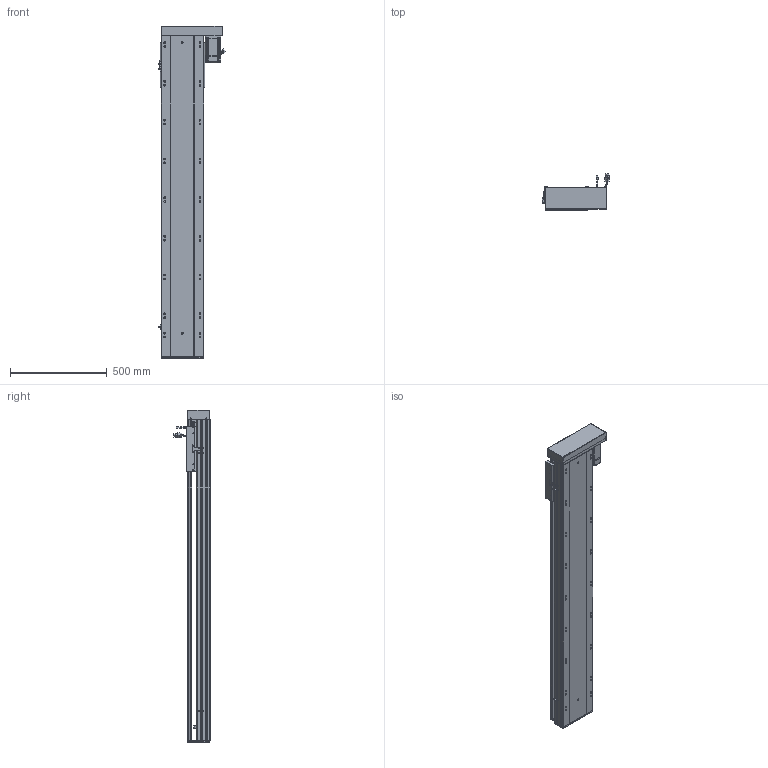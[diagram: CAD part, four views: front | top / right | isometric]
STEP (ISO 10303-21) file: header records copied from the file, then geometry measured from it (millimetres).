
FILE_DESCRIPTION (( 'STEP AP203' ), '1' );
FILE_NAME ('RY220-L2525-800-RK-邧嶺.SLDASM_1300.step', '2022-08-06T08:53:05', ( '' ), ( '' ), 'SwSTEP 2.0', 'SolidWorks 2016', '' );
FILE_SCHEMA (( 'CONFIG_CONTROL_DESIGN' ));
Length unit declared in the file: millimetre
Products named in the file (12): 滅袉蝶18-15; RY220左右折电机安装板; RY220-俋离672覜茼んえ; 滅袉蝶18-10; RY220蛌殏菁釱-800-邧嶺_1300; RY220半封闭25-32螺母铝滑块; RY220酘衵殏萇儂欶; RY220-L2525-800-RK-邧嶺.SLDASM_1300; 怢湛750W_ECMA-CX0807ES; 覜茼ん672; RY220綴裔啣; RY220-800-蛌殏奻裔啣_1300
Assembly tree (15 placements, depth 2):
  RY220-L2525-800-RK-邧嶺.SLDASM_1300
    RY220蛌殏菁釱-800-邧嶺_1300
    RY220-800-蛌殏奻裔啣_1300
    怢湛750W_ECMA-CX0807ES
    滅袉蝶18-10  x2
    RY220-俋离672覜茼んえ
    覜茼ん672  x3
    RY220綴裔啣
    RY220半封闭25-32螺母铝滑块
    滅袉蝶18-15  x2
    RY220左右折电机安装板
    RY220酘衵殏萇儂欶
Bounding box: 347.44 x 187.27 x 1714 mm (x, y, z)
Volume: 13676779.1 mm3; surface area: 4074642.5 mm2
Topology: 16 solids, 16 shells, 2243 faces, 6192 edges, 3903 vertices
Faces by surface type: cylinder 1023, plane 904, cone 246, bspline 44, sphere 16, torus 10
Entity records: 74051 total; most frequent: CARTESIAN_POINT 21387, ORIENTED_EDGE 10920, DIRECTION 10320, EDGE_CURVE 5460, AXIS2_PLACEMENT_3D 3641, VERTEX_POINT 3559, VECTOR 3038, LINE 3038
